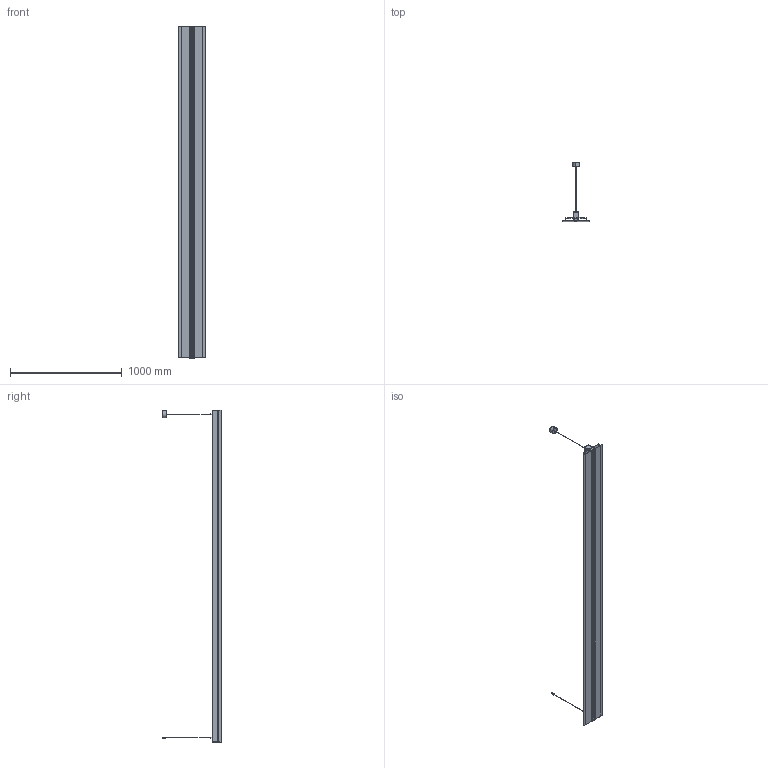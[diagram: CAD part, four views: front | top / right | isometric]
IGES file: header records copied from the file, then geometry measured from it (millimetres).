
Start section: SolidWorks IGES file using analytic representation for surfaces
Global section: file name: C:\Users\JoãoSantos\Desktop\02_3D.2D\01_2020\02_Linear\12_MGB\02_MGB_PendantIndirectTrack\MGB_PENDANT_TRACK_2970.IGS; native system: SolidWorks 2020; preprocessor: SolidWorks 2020; author: JoãoSantos; date: 201022.165521; units: millimetre
Bounding box: 236.5 x 523.62 x 2972.4 mm (x, y, z)
Surface area: 4355514.9 mm2 (no closed solid volume)
Topology: 0 solids, 0 shells, 406 faces, 4720 edges, 4720 vertices
Faces by surface type: bspline 292, revolution 114
